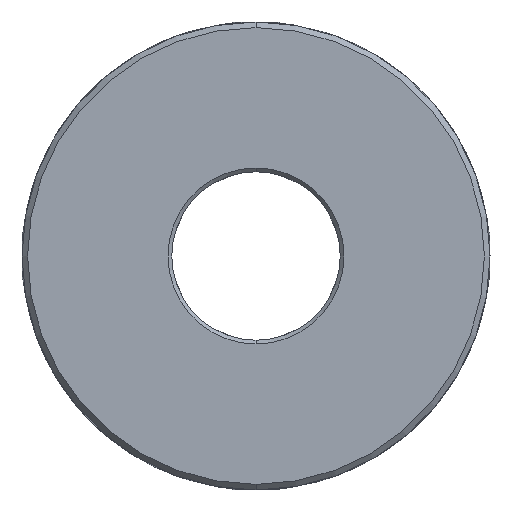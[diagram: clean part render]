
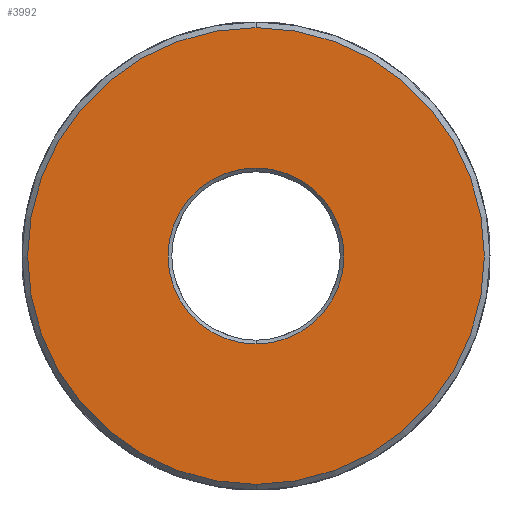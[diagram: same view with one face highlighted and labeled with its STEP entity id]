
A CAD part, front view. The second image highlights one B-rep face of the part: STEP entity #3992.
In plain terms, the highlighted planar face has unit normal (0, -1, 0).
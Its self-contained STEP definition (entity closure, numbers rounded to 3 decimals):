
#165 = ORIENTED_EDGE ( 'NONE', *, *, #6299, .T. ) ;
#433 = AXIS2_PLACEMENT_3D ( 'NONE', #1131, #5281, #5211 ) ;
#552 = EDGE_LOOP ( 'NONE', ( #165, #1544 ) ) ;
#1131 = CARTESIAN_POINT ( 'NONE',  ( -50., 0., 32.858 ) ) ;
#1192 = CARTESIAN_POINT ( 'NONE',  ( 0., 0., 0. ) ) ;
#1221 = AXIS2_PLACEMENT_3D ( 'NONE', #6944, #2446, #5863 ) ;
#1460 = EDGE_CURVE ( 'NONE', #1930, #5839, #7108, .T. ) ;
#1544 = ORIENTED_EDGE ( 'NONE', *, *, #1676, .T. ) ;
#1676 = EDGE_CURVE ( 'NONE', #5155, #4839, #4099, .T. ) ;
#1775 = DIRECTION ( 'NONE',  ( 0., -1., 0. ) ) ;
#1820 = CARTESIAN_POINT ( 'NONE',  ( 0., 0., 0. ) ) ;
#1930 = VERTEX_POINT ( 'NONE', #2999 ) ;
#2446 = DIRECTION ( 'NONE',  ( 0., 1., 0. ) ) ;
#2623 = CARTESIAN_POINT ( 'NONE',  ( 0., 0., -9.4 ) ) ;
#2999 = CARTESIAN_POINT ( 'NONE',  ( 0., 0., -24.4 ) ) ;
#3010 = DIRECTION ( 'NONE',  ( 0., -1., 0. ) ) ;
#3069 = DIRECTION ( 'NONE',  ( 0., 0., 1. ) ) ;
#3266 = DIRECTION ( 'NONE',  ( 0., 1., 0. ) ) ;
#3294 = CARTESIAN_POINT ( 'NONE',  ( 0., 0., 0. ) ) ;
#3992 = ADVANCED_FACE ( 'NONE', ( #5752, #5409 ), #5777, .F. ) ;
#4099 = CIRCLE ( 'NONE', #5644, 9.4 ) ;
#4607 = CIRCLE ( 'NONE', #1221, 9.4 ) ;
#4839 = VERTEX_POINT ( 'NONE', #2623 ) ;
#4840 = ORIENTED_EDGE ( 'NONE', *, *, #5915, .T. ) ;
#5155 = VERTEX_POINT ( 'NONE', #5941 ) ;
#5211 = DIRECTION ( 'NONE',  ( 0., 0., 1. ) ) ;
#5249 = CARTESIAN_POINT ( 'NONE',  ( 0., 0., 24.4 ) ) ;
#5281 = DIRECTION ( 'NONE',  ( 0., 1., 0. ) ) ;
#5409 = FACE_OUTER_BOUND ( 'NONE', #7177, .T. ) ;
#5644 = AXIS2_PLACEMENT_3D ( 'NONE', #3294, #3266, #6729 ) ;
#5752 = FACE_BOUND ( 'NONE', #552, .T. ) ;
#5777 = PLANE ( 'NONE',  #433 ) ;
#5839 = VERTEX_POINT ( 'NONE', #5249 ) ;
#5856 = DIRECTION ( 'NONE',  ( 0., 0., 1. ) ) ;
#5863 = DIRECTION ( 'NONE',  ( 0., 0., 1. ) ) ;
#5915 = EDGE_CURVE ( 'NONE', #5839, #1930, #6550, .T. ) ;
#5941 = CARTESIAN_POINT ( 'NONE',  ( 0., 0., 9.4 ) ) ;
#6299 = EDGE_CURVE ( 'NONE', #4839, #5155, #4607, .T. ) ;
#6440 = AXIS2_PLACEMENT_3D ( 'NONE', #1192, #1775, #5856 ) ;
#6550 = CIRCLE ( 'NONE', #6440, 24.4 ) ;
#6729 = DIRECTION ( 'NONE',  ( 0., 0., 1. ) ) ;
#6792 = ORIENTED_EDGE ( 'NONE', *, *, #1460, .T. ) ;
#6944 = CARTESIAN_POINT ( 'NONE',  ( 0., 0., 0. ) ) ;
#7108 = CIRCLE ( 'NONE', #7315, 24.4 ) ;
#7177 = EDGE_LOOP ( 'NONE', ( #4840, #6792 ) ) ;
#7315 = AXIS2_PLACEMENT_3D ( 'NONE', #1820, #3010, #3069 ) ;
